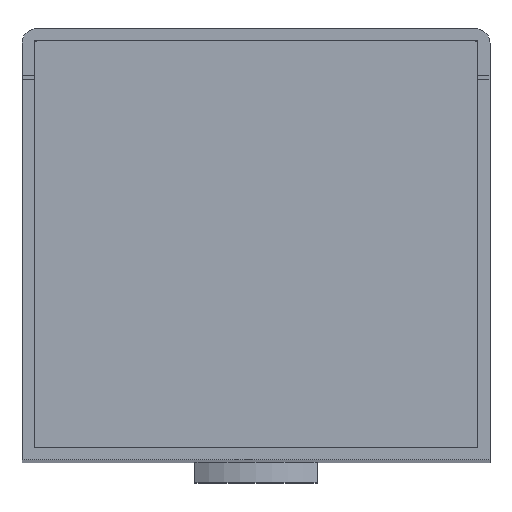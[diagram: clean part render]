
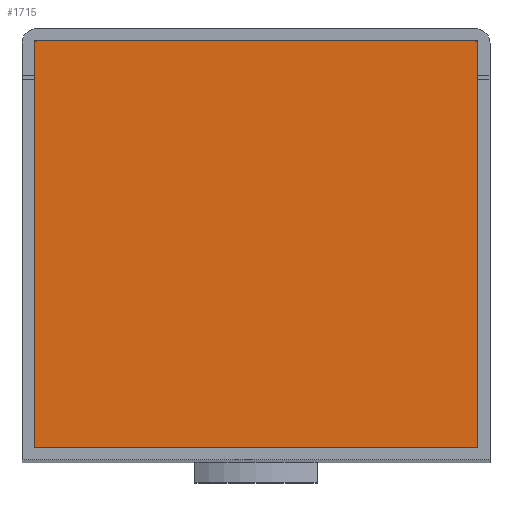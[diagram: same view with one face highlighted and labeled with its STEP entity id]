
A CAD part, top view. The second image highlights one B-rep face of the part: STEP entity #1715.
In plain terms, the highlighted planar face has unit normal (0, 0, 1).
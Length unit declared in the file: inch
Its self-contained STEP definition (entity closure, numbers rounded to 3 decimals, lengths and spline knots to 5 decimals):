
#1580=DIRECTION('',(0.,1.,0.));
#1581=VECTOR('',#1580,2.493);
#1582=CARTESIAN_POINT('',(-1.359,-2.28125,5.6715));
#1583=LINE('',#1582,#1581);
#1584=DIRECTION('',(1.,0.,0.));
#1585=VECTOR('',#1584,2.718);
#1586=CARTESIAN_POINT('',(-1.359,0.21175,5.6715));
#1587=LINE('',#1586,#1585);
#1588=DIRECTION('',(0.,-1.,0.));
#1589=VECTOR('',#1588,2.493);
#1590=CARTESIAN_POINT('',(1.359,0.21175,5.6715));
#1591=LINE('',#1590,#1589);
#1592=DIRECTION('',(-1.,0.,0.));
#1593=VECTOR('',#1592,2.718);
#1594=CARTESIAN_POINT('',(1.359,-2.28125,5.6715));
#1595=LINE('',#1594,#1593);
#1668=CARTESIAN_POINT('',(-1.359,-2.28125,5.6715));
#1669=CARTESIAN_POINT('',(-1.359,0.21175,5.6715));
#1670=VERTEX_POINT('',#1668);
#1671=VERTEX_POINT('',#1669);
#1672=CARTESIAN_POINT('',(1.359,-2.28125,5.6715));
#1673=VERTEX_POINT('',#1672);
#1674=CARTESIAN_POINT('',(1.359,0.21175,5.6715));
#1675=VERTEX_POINT('',#1674);
#1700=CARTESIAN_POINT('',(0.,-1.03475,5.6715));
#1701=DIRECTION('',(0.,0.,1.));
#1702=DIRECTION('',(1.,0.,0.));
#1703=AXIS2_PLACEMENT_3D('',#1700,#1701,#1702);
#1704=PLANE('',#1703);
#1706=ORIENTED_EDGE('',*,*,#1705,.T.);
#1708=ORIENTED_EDGE('',*,*,#1707,.T.);
#1710=ORIENTED_EDGE('',*,*,#1709,.T.);
#1712=ORIENTED_EDGE('',*,*,#1711,.T.);
#1713=EDGE_LOOP('',(#1706,#1708,#1710,#1712));
#1714=FACE_OUTER_BOUND('',#1713,.F.);
#1715=ADVANCED_FACE('',(#1714),#1704,.T.);
#1705=EDGE_CURVE('',#1670,#1671,#1583,.T.);
#1707=EDGE_CURVE('',#1671,#1675,#1587,.T.);
#1709=EDGE_CURVE('',#1675,#1673,#1591,.T.);
#1711=EDGE_CURVE('',#1673,#1670,#1595,.T.);
